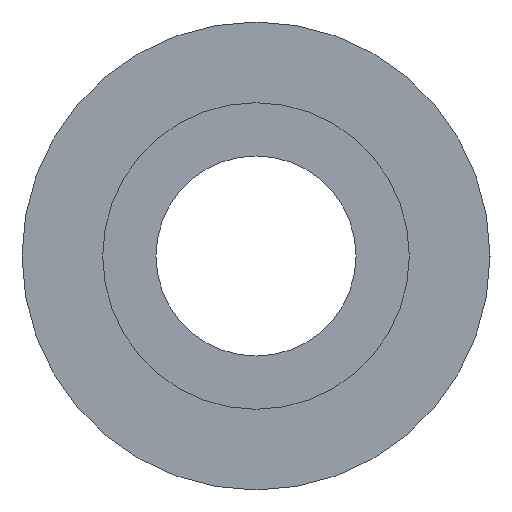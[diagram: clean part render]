
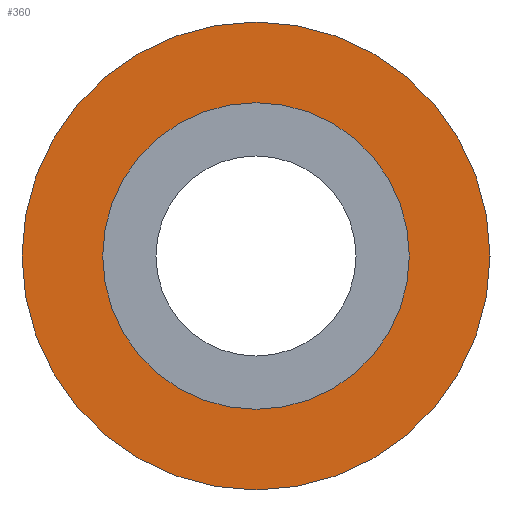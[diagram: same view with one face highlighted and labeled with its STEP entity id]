
A CAD part, left-side view. The second image highlights one B-rep face of the part: STEP entity #360.
In plain terms, the highlighted planar face has unit normal (-1, 0, 0).
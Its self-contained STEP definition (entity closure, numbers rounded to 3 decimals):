
#10=CARTESIAN_POINT('',(102.124,112.084,0.));
#20=DIRECTION('',(1.,0.,0.));
#30=DIRECTION('',(0.,-1.,0.));
#40=AXIS2_PLACEMENT_3D('',#10,#20,#30);
#50=PLANE('',#40);
#60=CARTESIAN_POINT('',(102.124,106.084,0.));
#70=DIRECTION('',(1.,0.,0.));
#80=DIRECTION('',(0.,1.,0.));
#90=AXIS2_PLACEMENT_3D('',#60,#70,#80);
#100=CIRCLE('',#90,4.75);
#110=CARTESIAN_POINT('',(102.124,110.834,0.));
#120=VERTEX_POINT('',#110);
#130=CARTESIAN_POINT('',(102.124,101.334,
0.));
#140=VERTEX_POINT('',#130);
#150=EDGE_CURVE('',#120,#140,#100,.T.);
#160=ORIENTED_EDGE('',*,*,#150,.T.);
#170=EDGE_CURVE('',#140,#120,#100,.T.);
#180=ORIENTED_EDGE('',*,*,#170,.T.);
#190=EDGE_LOOP('',(#180,#160));
#200=FACE_BOUND('',#190,.T.);
#210=CARTESIAN_POINT('',(102.124,106.084,0.));
#220=DIRECTION('',(1.,0.,0.));
#230=DIRECTION('',(0.,1.,0.));
#240=AXIS2_PLACEMENT_3D('',#210,#220,#230);
#250=CIRCLE('',#240,7.25);
#260=CARTESIAN_POINT('',(102.124,113.334,
0.));
#270=VERTEX_POINT('',#260);
#280=CARTESIAN_POINT('',(102.124,98.834,0.));
#290=VERTEX_POINT('',#280);
#300=EDGE_CURVE('',#270,#290,#250,.T.);
#310=ORIENTED_EDGE('',*,*,#300,.F.);
#320=EDGE_CURVE('',#290,#270,#250,.T.);
#330=ORIENTED_EDGE('',*,*,#320,.F.);
#340=EDGE_LOOP('',(#330,#310));
#350=FACE_OUTER_BOUND('',#340,.T.);
#360=ADVANCED_FACE('',(#200,#350),#50,.F.);
